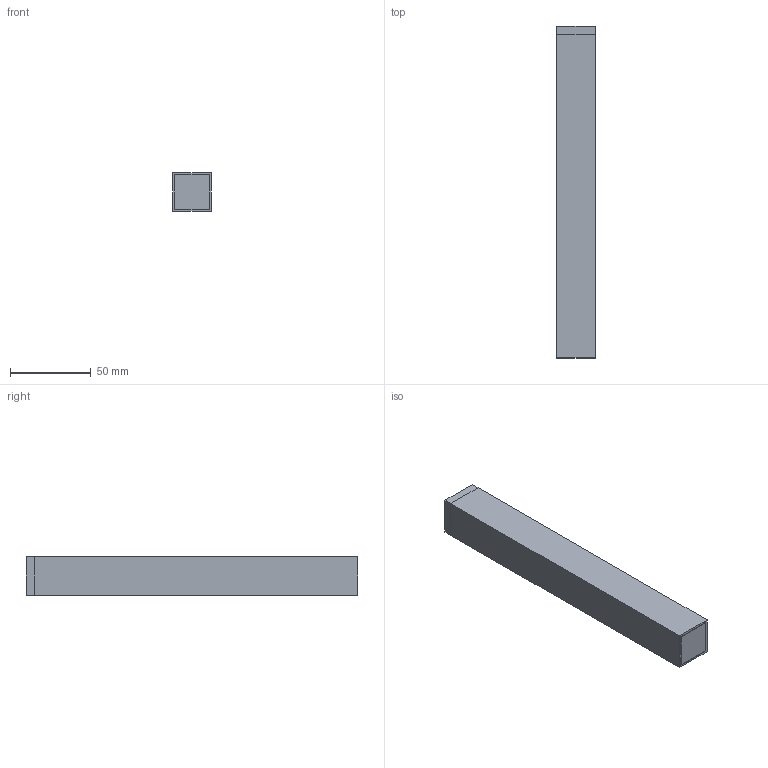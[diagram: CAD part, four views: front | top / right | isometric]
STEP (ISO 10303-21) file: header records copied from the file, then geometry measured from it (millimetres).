
FILE_DESCRIPTION(/* description */ (''),/* implementation_level */ '2;1');
FILE_NAME(/* name */ 'BM02-S2424-205L-N.step',/* time_stamp */ '2025-10-10T15:33:50+09:00',/* author */ (''),/* organization */ (''),/* preprocessor_version */ 'ST-DEVELOPER v20.1',/* originating_system */ 'Autodesk Translation Framework v14.17.0.0',/* authorisation */ '');
FILE_SCHEMA (('AUTOMOTIVE_DESIGN { 1 0 10303 214 3 1 1 }'));
Length unit declared in the file: millimetre
Products named in the file (4): BM02-S2424-205L-N; Component1; Component2; Component3
Assembly tree (3 placements, depth 2):
  BM02-S2424-205L-N
    Component1
    Component2
    Component3
Bounding box: 24 x 205 x 24 mm (x, y, z)
Volume: 105182.8 mm3; surface area: 56206.2 mm2
Topology: 4 solids, 4 shells, 39 faces, 85 edges, 55 vertices
Faces by surface type: plane 37, cone 1, cylinder 1
Full cylindrical faces by diameter (mm): 4.234 x1
Entity records: 1172 total; most frequent: CARTESIAN_POINT 185, DIRECTION 178, ORIENTED_EDGE 168, EDGE_CURVE 84, LINE 82, VECTOR 82, VERTEX_POINT 55, AXIS2_PLACEMENT_3D 48
